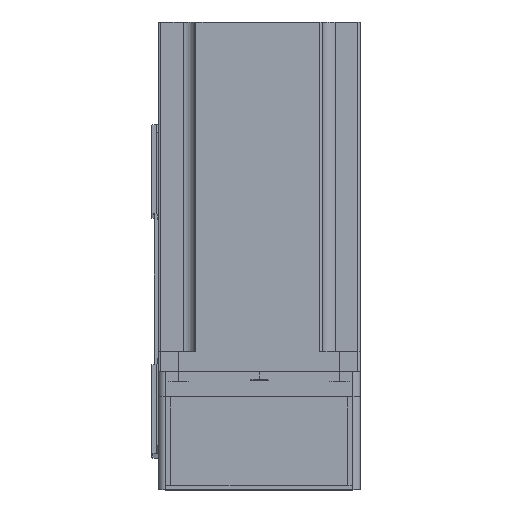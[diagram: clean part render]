
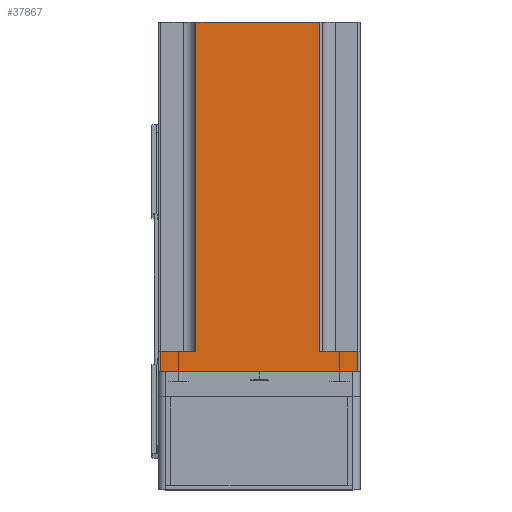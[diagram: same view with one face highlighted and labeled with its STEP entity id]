
A CAD part, top view. The second image highlights one B-rep face of the part: STEP entity #37867.
In plain terms, the highlighted planar face has unit normal (0, 0, 1) as drawn and (-1, 0, 0) by its records, which use the part's own axes.
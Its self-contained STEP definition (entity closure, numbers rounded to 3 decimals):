
#736 = PLANE ( 'NONE',  #18662 ) ;
#2112 = CARTESIAN_POINT ( 'NONE',  ( -40., 39., 8. ) ) ;
#2866 = CARTESIAN_POINT ( 'NONE',  ( -40., -24., 8. ) ) ;
#4394 = CARTESIAN_POINT ( 'NONE',  ( -40., -39., 8. ) ) ;
#5490 = VECTOR ( 'NONE', #44818, 1000. ) ;
#7241 = VERTEX_POINT ( 'NONE', #2866 ) ;
#7389 = VERTEX_POINT ( 'NONE', #43315 ) ;
#7633 = EDGE_CURVE ( 'NONE', #7241, #31728, #41095, .T. ) ;
#7881 = CARTESIAN_POINT ( 'NONE',  ( -40., -24., 138.3 ) ) ;
#8362 = EDGE_CURVE ( 'NONE', #13246, #7389, #8841, .T. ) ;
#8841 = LINE ( 'NONE', #25303, #23718 ) ;
#9202 = CARTESIAN_POINT ( 'NONE',  ( -40., 40., 8. ) ) ;
#9249 = ORIENTED_EDGE ( 'NONE', *, *, #14148, .F. ) ;
#9454 = VECTOR ( 'NONE', #16045, 1000. ) ;
#9583 = VERTEX_POINT ( 'NONE', #30245 ) ;
#11317 = EDGE_CURVE ( 'NONE', #44618, #45683, #15166, .T. ) ;
#11747 = VECTOR ( 'NONE', #11841, 1000. ) ;
#11841 = DIRECTION ( 'NONE',  ( 0., 0., 1. ) ) ;
#13169 = DIRECTION ( 'NONE',  ( 0., -1., 0. ) ) ;
#13246 = VERTEX_POINT ( 'NONE', #37834 ) ;
#14148 = EDGE_CURVE ( 'NONE', #9583, #44618, #43793, .T. ) ;
#14175 = CARTESIAN_POINT ( 'NONE',  ( -40., -39., 138.3 ) ) ;
#14635 = ORIENTED_EDGE ( 'NONE', *, *, #47691, .T. ) ;
#14764 = ORIENTED_EDGE ( 'NONE', *, *, #33198, .T. ) ;
#15166 = LINE ( 'NONE', #19706, #36197 ) ;
#15972 = VERTEX_POINT ( 'NONE', #2112 ) ;
#16045 = DIRECTION ( 'NONE',  ( 0., 0., -1. ) ) ;
#16048 = LINE ( 'NONE', #9202, #5490 ) ;
#16165 = CARTESIAN_POINT ( 'NONE',  ( -40., 25., 8. ) ) ;
#16404 = ORIENTED_EDGE ( 'NONE', *, *, #43857, .T. ) ;
#17679 = CARTESIAN_POINT ( 'NONE',  ( -40., 25., 138.3 ) ) ;
#18080 = EDGE_CURVE ( 'NONE', #7389, #31728, #30140, .T. ) ;
#18135 = DIRECTION ( 'NONE',  ( 0., 0., 1. ) ) ;
#18662 = AXIS2_PLACEMENT_3D ( 'NONE', #20648, #48326, #24679 ) ;
#19706 = CARTESIAN_POINT ( 'NONE',  ( -40., -40., 138.3 ) ) ;
#20648 = CARTESIAN_POINT ( 'NONE',  ( -40., -40., 138.3 ) ) ;
#23718 = VECTOR ( 'NONE', #41152, 1000. ) ;
#24679 = DIRECTION ( 'NONE',  ( 0., 0., -1. ) ) ;
#25224 = EDGE_LOOP ( 'NONE', ( #42189, #16404, #28718, #9249, #14635, #14764, #32348, #35453 ) ) ;
#25303 = CARTESIAN_POINT ( 'NONE',  ( -40., -40., 0. ) ) ;
#26055 = LINE ( 'NONE', #7881, #11747 ) ;
#26910 = FACE_OUTER_BOUND ( 'NONE', #25224, .T. ) ;
#28718 = ORIENTED_EDGE ( 'NONE', *, *, #11317, .F. ) ;
#30140 = LINE ( 'NONE', #14175, #49980 ) ;
#30245 = CARTESIAN_POINT ( 'NONE',  ( -40., 25., 8. ) ) ;
#31728 = VERTEX_POINT ( 'NONE', #4394 ) ;
#32348 = ORIENTED_EDGE ( 'NONE', *, *, #8362, .T. ) ;
#33198 = EDGE_CURVE ( 'NONE', #15972, #13246, #50338, .T. ) ;
#35453 = ORIENTED_EDGE ( 'NONE', *, *, #18080, .T. ) ;
#36197 = VECTOR ( 'NONE', #47197, 1000. ) ;
#37834 = CARTESIAN_POINT ( 'NONE',  ( -40., 39., 0. ) ) ;
#37867 = ADVANCED_FACE ( 'NONE', ( #26910 ), #736, .F. ) ;
#40693 = CARTESIAN_POINT ( 'NONE',  ( -40., -40., 8. ) ) ;
#41095 = LINE ( 'NONE', #40693, #42335 ) ;
#41152 = DIRECTION ( 'NONE',  ( 0., -1., 0. ) ) ;
#42189 = ORIENTED_EDGE ( 'NONE', *, *, #7633, .F. ) ;
#42335 = VECTOR ( 'NONE', #13169, 1000. ) ;
#43315 = CARTESIAN_POINT ( 'NONE',  ( -40., -39., 0. ) ) ;
#43682 = CARTESIAN_POINT ( 'NONE',  ( -40., 39., 138.3 ) ) ;
#43793 = LINE ( 'NONE', #16165, #48106 ) ;
#43815 = DIRECTION ( 'NONE',  ( 0., 0., 1. ) ) ;
#43857 = EDGE_CURVE ( 'NONE', #7241, #45683, #26055, .T. ) ;
#44618 = VERTEX_POINT ( 'NONE', #17679 ) ;
#44818 = DIRECTION ( 'NONE',  ( 0., 1., 0. ) ) ;
#45683 = VERTEX_POINT ( 'NONE', #46066 ) ;
#46066 = CARTESIAN_POINT ( 'NONE',  ( -40., -24., 138.3 ) ) ;
#47197 = DIRECTION ( 'NONE',  ( 0., -1., 0. ) ) ;
#47691 = EDGE_CURVE ( 'NONE', #9583, #15972, #16048, .T. ) ;
#48106 = VECTOR ( 'NONE', #43815, 1000. ) ;
#48326 = DIRECTION ( 'NONE',  ( 1., 0., 0. ) ) ;
#49980 = VECTOR ( 'NONE', #18135, 1000. ) ;
#50338 = LINE ( 'NONE', #43682, #9454 ) ;
